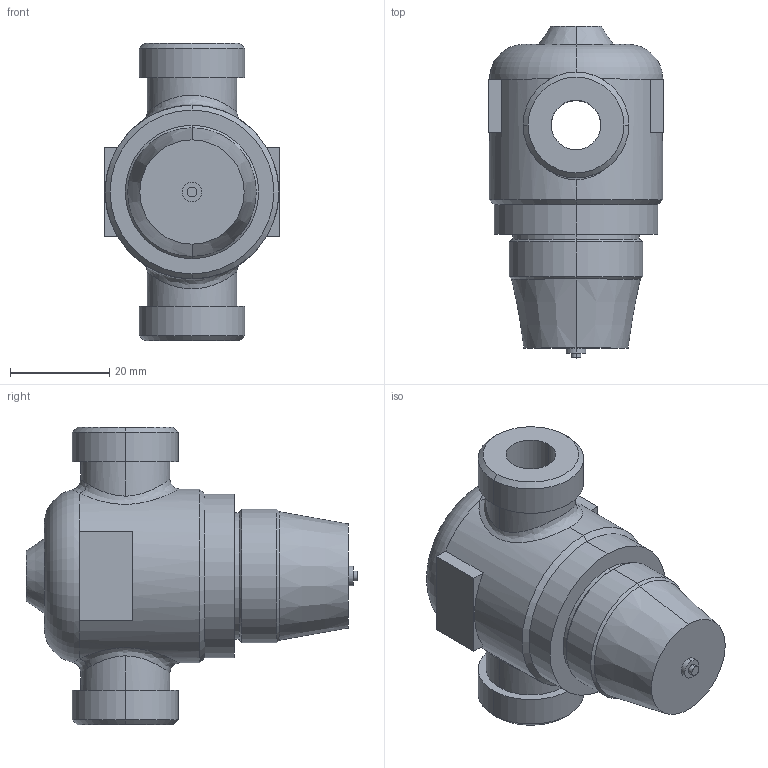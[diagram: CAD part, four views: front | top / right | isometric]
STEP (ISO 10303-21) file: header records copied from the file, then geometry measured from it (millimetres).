
FILE_DESCRIPTION((''),'2;1');
FILE_NAME('000380.dwg.stp','2006-10-04T11:28:51',(''),(''),'Mechanical Desktop 2006','Mechanical Desktop 2006',', , ');
FILE_SCHEMA(('AUTOMOTIVE_DESIGN { 1 2 10303 214 0 1 1 1 }'));
Length unit declared in the file: millimetre
Products named in the file (1): Product
Bounding box: 35.36 x 66.9 x 60 mm (x, y, z)
Volume: 50397.9 mm3; surface area: 15139.3 mm2
Topology: 8 solids, 8 shells, 75 faces, 157 edges, 99 vertices
Faces by surface type: plane 26, cylinder 24, cone 14, bspline 9, torus 2
Entity records: 2798 total; most frequent: CARTESIAN_POINT 1133, DIRECTION 346, ORIENTED_EDGE 314, EDGE_CURVE 157, AXIS2_PLACEMENT_3D 143, VERTEX_POINT 99, EDGE_LOOP 82, CIRCLE 76
